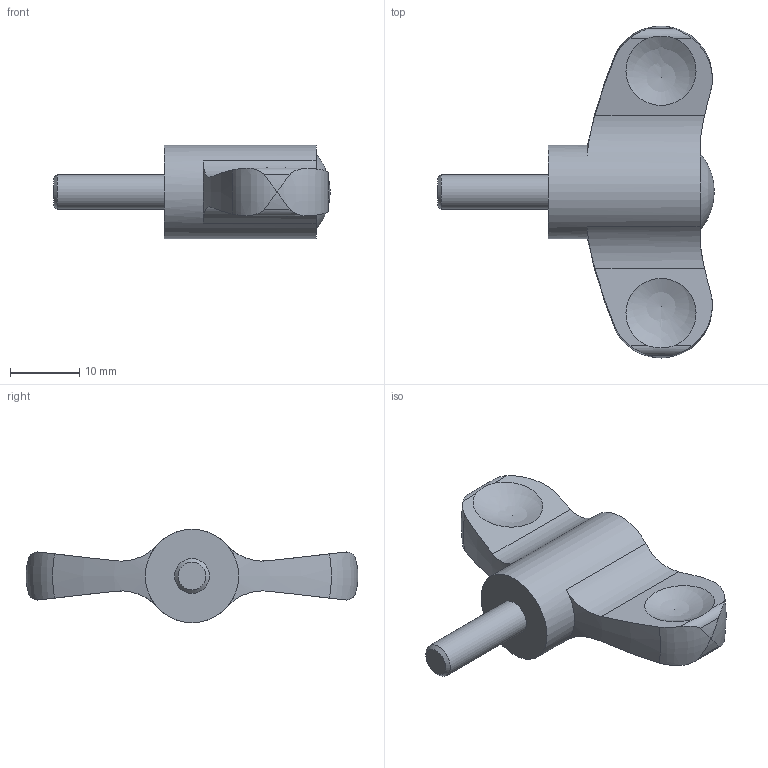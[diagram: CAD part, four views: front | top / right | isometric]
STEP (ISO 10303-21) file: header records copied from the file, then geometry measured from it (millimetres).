
FILE_DESCRIPTION( ( 'STEP AP203' ), '1' );
FILE_NAME( 'C:/Temp/Ganter_Step_05_03_2020/data/2_2/gn_633/Wing nut GN 633-48-M5-16-DRT.stp', '2020-03-05T12:20:33', ( 'License CC BY-ND 4.0' ), ( 'CADENAS' ), ' ', 'PARTsolutions', ' ' );
FILE_SCHEMA( ( 'CONFIG_CONTROL_DESIGN' ) );
Length unit declared in the file: millimetre
Products named in the file (1): _Wing nut GN 633-48-M5-16-DRT
Bounding box: 40 x 48 x 13.5 mm (x, y, z)
Volume: 6005.9 mm3; surface area: 2795 mm2
Topology: 1 solids, 1 shells, 33 faces, 102 edges, 68 vertices
Faces by surface type: cylinder 14, sphere 7, plane 7, bspline 2, torus 2, cone 1
Full cylindrical faces by diameter (mm): 5 x1, 13.5 x1
Entity records: 1450 total; most frequent: CARTESIAN_POINT 638, ORIENTED_EDGE 166, DIRECTION 138, EDGE_CURVE 83, VERTEX_POINT 63, AXIS2_PLACEMENT_3D 59, EDGE_LOOP 38, B_SPLINE_CURVE_WITH_KNOTS 36
